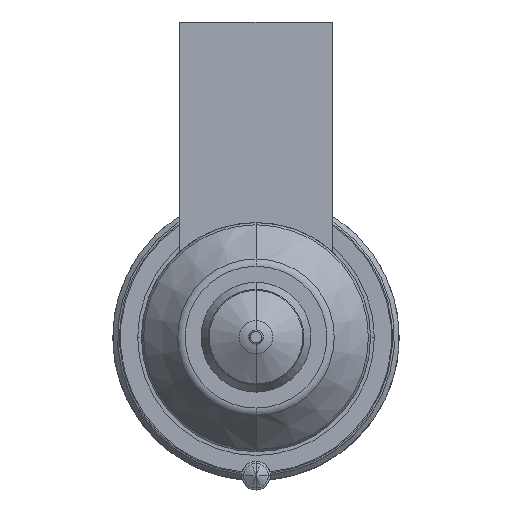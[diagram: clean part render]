
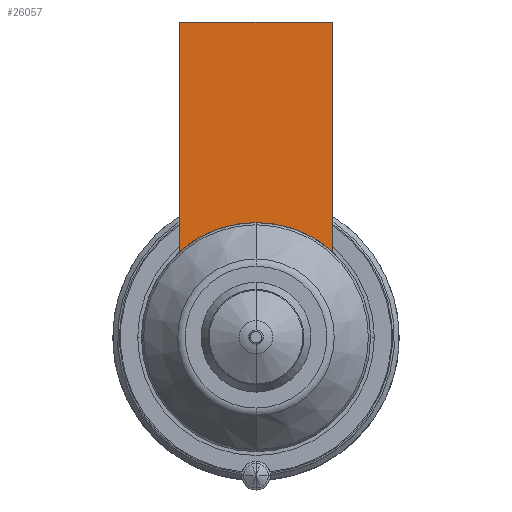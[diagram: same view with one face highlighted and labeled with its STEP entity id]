
A CAD part, front view. The second image highlights one B-rep face of the part: STEP entity #26057.
In plain terms, the highlighted planar face has unit normal (0, -1, 0).
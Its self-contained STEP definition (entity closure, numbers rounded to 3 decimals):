
#25139=DIRECTION('',(0.,0.,-1.));
#25140=VECTOR('',#25139,24.056);
#25141=CARTESIAN_POINT('',(-8.,-56.,33.));
#25142=LINE('',#25141,#25140);
#25179=DIRECTION('',(1.,0.,0.));
#25180=VECTOR('',#25179,16.);
#25181=CARTESIAN_POINT('',(-8.,-56.,33.));
#25182=LINE('',#25181,#25180);
#25186=CARTESIAN_POINT('',(0.,-56.,0.));
#25187=DIRECTION('',(0.,-1.,0.));
#25188=DIRECTION('',(0.667,0.,0.745));
#25189=AXIS2_PLACEMENT_3D('',#25186,#25187,#25188);
#25194=CARTESIAN_POINT('',(0.,-56.,0.));
#25195=DIRECTION('',(0.,-1.,0.));
#25196=DIRECTION('',(0.,0.,1.));
#25197=AXIS2_PLACEMENT_3D('',#25194,#25195,#25196);
#25230=DIRECTION('',(0.,0.,-1.));
#25231=VECTOR('',#25230,24.056);
#25232=CARTESIAN_POINT('',(8.,-56.,33.));
#25233=LINE('',#25232,#25231);
#25893=CARTESIAN_POINT('',(-8.,-56.,33.));
#25894=VERTEX_POINT('',#25893);
#25899=CARTESIAN_POINT('',(8.,-56.,33.));
#25900=VERTEX_POINT('',#25899);
#25903=CARTESIAN_POINT('',(-8.,-56.,8.944));
#25904=VERTEX_POINT('',#25903);
#25907=CARTESIAN_POINT('',(8.,-56.,8.944));
#25908=VERTEX_POINT('',#25907);
#25976=CARTESIAN_POINT('',(0.,-56.,12.));
#25977=VERTEX_POINT('',#25976);
#26042=CARTESIAN_POINT('',(-8.,-56.,33.));
#26043=DIRECTION('',(0.,-1.,0.));
#26044=DIRECTION('',(0.,0.,-1.));
#26045=AXIS2_PLACEMENT_3D('',#26042,#26043,#26044);
#26046=PLANE('',#26045);
#26047=ORIENTED_EDGE('',*,*,#25990,.F.);
#26049=ORIENTED_EDGE('',*,*,#26048,.T.);
#26051=ORIENTED_EDGE('',*,*,#26050,.T.);
#26053=ORIENTED_EDGE('',*,*,#26052,.T.);
#26054=ORIENTED_EDGE('',*,*,#26022,.T.);
#26055=EDGE_LOOP('',(#26047,#26049,#26051,#26053,#26054));
#26056=FACE_OUTER_BOUND('',#26055,.F.);
#26057=ADVANCED_FACE('',(#26056),#26046,.T.);
#25190=CIRCLE('',#25189,12.);
#25198=CIRCLE('',#25197,12.);
#25990=EDGE_CURVE('',#25894,#25904,#25142,.T.);
#26022=EDGE_CURVE('',#25977,#25904,#25198,.T.);
#26048=EDGE_CURVE('',#25894,#25900,#25182,.T.);
#26050=EDGE_CURVE('',#25900,#25908,#25233,.T.);
#26052=EDGE_CURVE('',#25908,#25977,#25190,.T.);
